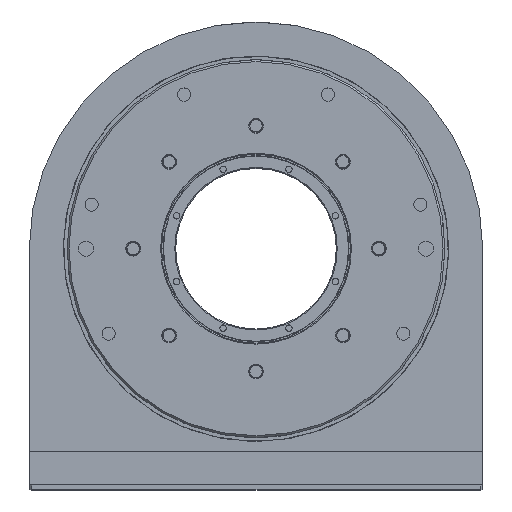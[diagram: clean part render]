
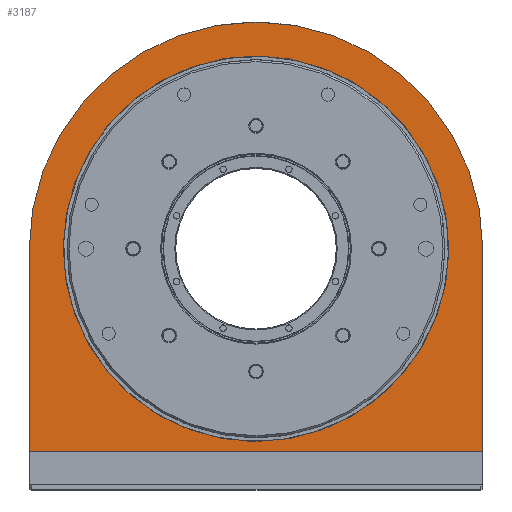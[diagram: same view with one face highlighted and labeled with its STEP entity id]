
A CAD part, top view. The second image highlights one B-rep face of the part: STEP entity #3187.
In plain terms, the highlighted planar face has unit normal (0, 0, 1).
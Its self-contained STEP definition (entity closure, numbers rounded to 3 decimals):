
#797 = CIRCLE ( 'NONE', #9057, 240. ) ;
#998 = CARTESIAN_POINT ( 'NONE',  ( 0., 0., 185. ) ) ;
#1077 = CARTESIAN_POINT ( 'NONE',  ( 0., 0., 185. ) ) ;
#1332 = VERTEX_POINT ( 'NONE', #18045 ) ;
#2201 = EDGE_LOOP ( 'NONE', ( #12819, #16982, #14227, #12675 ) ) ;
#2426 = DIRECTION ( 'NONE',  ( 1., 0., 0. ) ) ;
#2734 = DIRECTION ( 'NONE',  ( 0., 0., 1. ) ) ;
#2983 = CARTESIAN_POINT ( 'NONE',  ( -240., 0., 185. ) ) ;
#3187 = ADVANCED_FACE ( 'NONE', ( #9774, #19276 ), #5134, .T. ) ;
#3281 = EDGE_CURVE ( 'NONE', #8373, #16062, #797, .T. ) ;
#3586 = DIRECTION ( 'NONE',  ( 0., 0., 1. ) ) ;
#3880 = DIRECTION ( 'NONE',  ( 0., 0., 1. ) ) ;
#4148 = CARTESIAN_POINT ( 'NONE',  ( 240., -215., 185. ) ) ;
#4618 = DIRECTION ( 'NONE',  ( 1., 0., 0. ) ) ;
#5134 = PLANE ( 'NONE',  #9702 ) ;
#6678 = CIRCLE ( 'NONE', #18205, 204. ) ;
#7615 = VECTOR ( 'NONE', #8381, 1000. ) ;
#7944 = CARTESIAN_POINT ( 'NONE',  ( 240., 0., 185. ) ) ;
#8373 = VERTEX_POINT ( 'NONE', #7944 ) ;
#8381 = DIRECTION ( 'NONE',  ( 0., 1., 0. ) ) ;
#9057 = AXIS2_PLACEMENT_3D ( 'NONE', #1077, #2734, #2426 ) ;
#9702 = AXIS2_PLACEMENT_3D ( 'NONE', #17725, #3586, #9876 ) ;
#9762 = CARTESIAN_POINT ( 'NONE',  ( 0., 0., 185. ) ) ;
#9774 = FACE_BOUND ( 'NONE', #10069, .T. ) ;
#9876 = DIRECTION ( 'NONE',  ( 1., 0., 0. ) ) ;
#10069 = EDGE_LOOP ( 'NONE', ( #13386, #10217 ) ) ;
#10217 = ORIENTED_EDGE ( 'NONE', *, *, #13352, .F. ) ;
#10380 = AXIS2_PLACEMENT_3D ( 'NONE', #998, #15142, #4618 ) ;
#10575 = CARTESIAN_POINT ( 'NONE',  ( -204., 0., 185. ) ) ;
#10827 = LINE ( 'NONE', #12174, #16287 ) ;
#11360 = VERTEX_POINT ( 'NONE', #12062 ) ;
#11520 = DIRECTION ( 'NONE',  ( 1., 0., 0. ) ) ;
#11621 = DIRECTION ( 'NONE',  ( 0., -1., 0. ) ) ;
#11682 = LINE ( 'NONE', #4148, #7615 ) ;
#11788 = CARTESIAN_POINT ( 'NONE',  ( -240., -215., 185. ) ) ;
#12038 = VERTEX_POINT ( 'NONE', #11788 ) ;
#12062 = CARTESIAN_POINT ( 'NONE',  ( 240., -215., 185. ) ) ;
#12174 = CARTESIAN_POINT ( 'NONE',  ( -240., -215., 185. ) ) ;
#12184 = EDGE_CURVE ( 'NONE', #11360, #8373, #11682, .T. ) ;
#12675 = ORIENTED_EDGE ( 'NONE', *, *, #12184, .T. ) ;
#12819 = ORIENTED_EDGE ( 'NONE', *, *, #3281, .T. ) ;
#13055 = VECTOR ( 'NONE', #11621, 1000. ) ;
#13276 = CARTESIAN_POINT ( 'NONE',  ( -240., 0., 185. ) ) ;
#13352 = EDGE_CURVE ( 'NONE', #1332, #20243, #6678, .T. ) ;
#13355 = CIRCLE ( 'NONE', #10380, 204. ) ;
#13386 = ORIENTED_EDGE ( 'NONE', *, *, #17646, .F. ) ;
#14227 = ORIENTED_EDGE ( 'NONE', *, *, #16052, .T. ) ;
#15142 = DIRECTION ( 'NONE',  ( 0., 0., 1. ) ) ;
#16052 = EDGE_CURVE ( 'NONE', #12038, #11360, #10827, .T. ) ;
#16062 = VERTEX_POINT ( 'NONE', #2983 ) ;
#16287 = VECTOR ( 'NONE', #17124, 1000. ) ;
#16982 = ORIENTED_EDGE ( 'NONE', *, *, #18133, .T. ) ;
#17124 = DIRECTION ( 'NONE',  ( 1., 0., 0. ) ) ;
#17646 = EDGE_CURVE ( 'NONE', #20243, #1332, #13355, .T. ) ;
#17725 = CARTESIAN_POINT ( 'NONE',  ( 0., 0., 185. ) ) ;
#18045 = CARTESIAN_POINT ( 'NONE',  ( 204., 0., 185. ) ) ;
#18133 = EDGE_CURVE ( 'NONE', #16062, #12038, #18962, .T. ) ;
#18205 = AXIS2_PLACEMENT_3D ( 'NONE', #9762, #3880, #11520 ) ;
#18962 = LINE ( 'NONE', #13276, #13055 ) ;
#19276 = FACE_OUTER_BOUND ( 'NONE', #2201, .T. ) ;
#20243 = VERTEX_POINT ( 'NONE', #10575 ) ;
